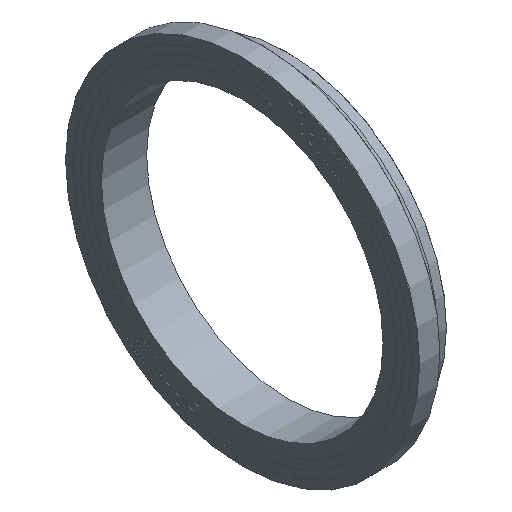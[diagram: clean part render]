
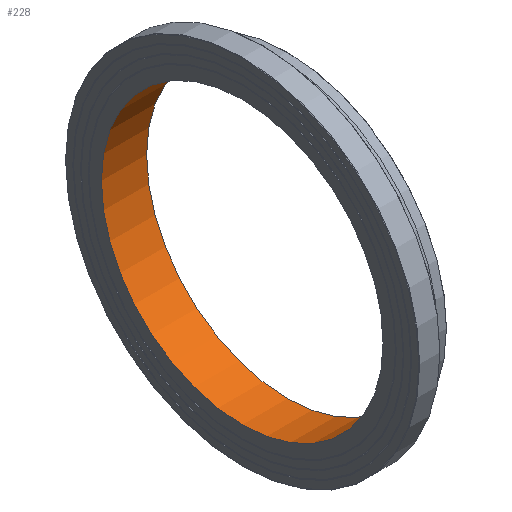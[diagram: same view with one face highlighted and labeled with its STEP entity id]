
A CAD part, isometric view. The second image highlights one B-rep face of the part: STEP entity #228.
In plain terms, the highlighted cylindrical face has radius 529.4 mm (diameter 1058.8 mm), a full revolution.
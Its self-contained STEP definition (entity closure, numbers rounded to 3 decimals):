
#33=CYLINDRICAL_SURFACE('',#274,529.4);
#50=ORIENTED_EDGE('',*,*,#79,.F.);
#51=ORIENTED_EDGE('',*,*,#76,.T.);
#76=EDGE_CURVE('',#96,#96,#116,.T.);
#79=EDGE_CURVE('',#99,#99,#119,.T.);
#96=VERTEX_POINT('',#383);
#99=VERTEX_POINT('',#390);
#116=CIRCLE('',#257,529.4);
#119=CIRCLE('',#261,529.4);
#150=EDGE_LOOP('',(#50));
#151=EDGE_LOOP('',(#51));
#190=FACE_BOUND('',#150,.T.);
#191=FACE_BOUND('',#151,.T.);
#228=ADVANCED_FACE('',(#190,#191),#33,.F.);
#257=AXIS2_PLACEMENT_3D('',#382,#303,#304);
#261=AXIS2_PLACEMENT_3D('',#389,#311,#312);
#274=AXIS2_PLACEMENT_3D('',#410,#337,#338);
#303=DIRECTION('',(-1.,0.,0.));
#304=DIRECTION('',(0.,0.,1.));
#311=DIRECTION('',(-1.,0.,0.));
#312=DIRECTION('',(0.,0.,1.));
#337=DIRECTION('',(-1.,0.,0.));
#338=DIRECTION('',(0.,0.,1.));
#382=CARTESIAN_POINT('',(0.,0.,0.));
#383=CARTESIAN_POINT('',(0.,0.,529.4));
#389=CARTESIAN_POINT('',(170.,0.,0.));
#390=CARTESIAN_POINT('',(170.,0.,529.4));
#410=CARTESIAN_POINT('',(60.,0.,0.));
